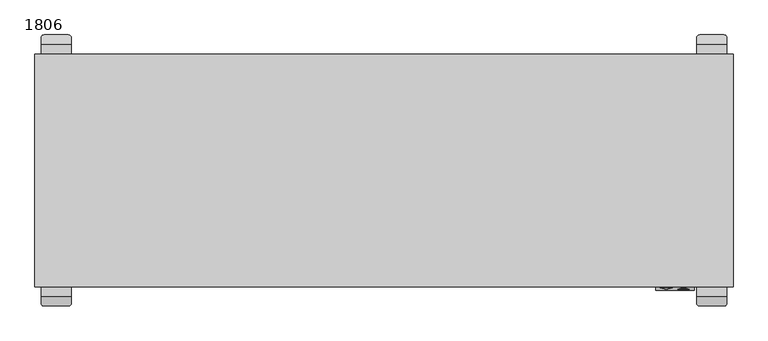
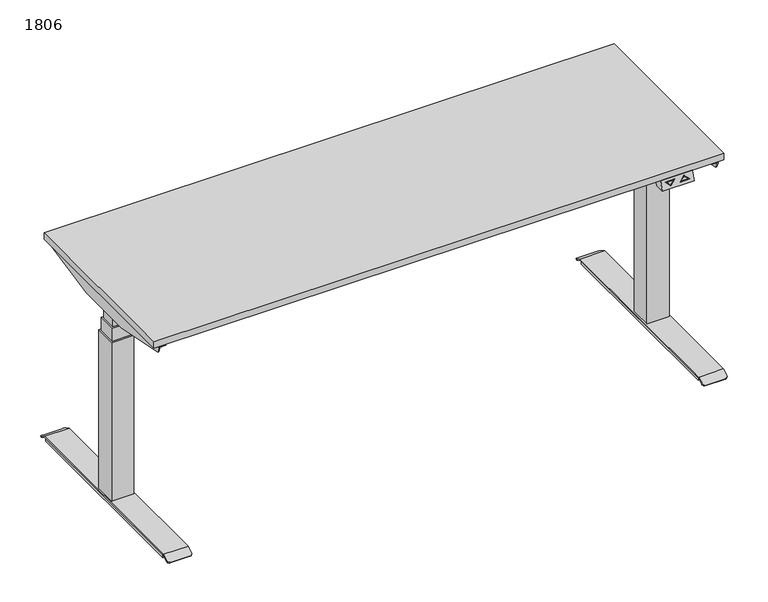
"""IFC4 building model written with IfcOpenShell, lengths in millimetres: furniture geometry, PINTA EQC : 1806."""

from ifc_helpers import new_model, si_unit, point, frame, frame_2d, origin, origin_with_axes, place, context, project, spatial, polyline, circle_curve, trimmed, segment, composite_curve, outline, extrude, faceted_brep, source, transform, mapped, element, save
from ifc_brep_helpers import plane_surface, cylinder_surface, advanced_brep


def furniture_1806_ecada380(model_context):
    return source(origin(), model_context, "Body", "SolidModel", [
        faceted_brep([(700.0, -610.0, 668.0), (700.0, -580.0, 668.0), (800.0, -580.0, 668.0), (800.0, -610.0, 668.0), (700.0, -600.0, 698.0), (800.0, -600.0, 698.0), (800.0, -570.0, 698.0), (700.0, -570.0, 698.0), (712.5, -602.6491106, 690.0526681), (742.5, -602.6491106, 690.0526681), (727.5, -607.3925271, 675.8224186), (787.5, -606.9174824, 677.2475529), (757.5, -606.9174824, 677.2475529), (772.5, -602.1740659, 691.4778023), (727.5, -606.4980999, 678.5057002), (737.6715729, -603.2815662, 688.1553015), (717.3284271, -603.2815662, 688.1553015), (782.6715729, -606.2850268, 679.1449195), (772.5, -603.0684931, 688.7945208), (762.3284271, -606.2850268, 679.1449195), (742.5, -601.7004273, 689.7364403), (712.5, -601.7004273, 689.7364403), (727.5, -606.4438438, 675.5061908), (737.6715729, -602.3328829, 687.8390737), (727.5, -605.5494166, 678.1894724), (717.3284271, -602.3328829, 687.8390737), (757.5, -605.9687991, 676.9313251), (787.5, -605.9687991, 676.9313251), (772.5, -601.2253826, 691.1615746), (772.5, -602.1198098, 688.478293), (782.6715729, -605.3363436, 678.8286917), (762.3284271, -605.3363436, 678.8286917)], [[[0, 1, 2, 3]], [[4, 5, 6, 7]], [[1, 0, 4, 7]], [[3, 2, 6, 5]], [[0, 3, 5, 4], [8, 9, 10], [11, 12, 13]], [[14, 15, 16]], [[17, 18, 19]], [[2, 1, 7, 6]], [[20, 21, 22], [23, 24, 25]], [[26, 27, 28], [29, 30, 31]], [[21, 20, 9, 8]], [[22, 21, 8, 10]], [[20, 22, 10, 9]], [[27, 26, 12, 11]], [[28, 27, 11, 13]], [[26, 28, 13, 12]], [[24, 23, 15, 14]], [[25, 24, 14, 16]], [[23, 25, 16, 15]], [[30, 29, 18, 17]], [[31, 30, 17, 19]], [[29, 31, 19, 18]]]),
        extrude(outline(polyline([(-880.0, -219.7732113), (880.0, -219.7733158), (880.0, -239.7733158), (-880.0, -239.7732113), (-880.0, -219.7732113)])), frame((0.0, 0.0, 658.0), z_axis=(0.0, 0.0, 1.0), x_axis=(1.0, 0.0, 0.0)), (0.0, 0.0, 1.0), 40.0),
        extrude(outline(polyline([(-880.0, -359.7732114), (880.0, -359.7733158), (880.0, -379.7733158), (-880.0, -379.7732114), (-880.0, -359.7732114)])), frame((0.0, 0.0, 658.0), z_axis=(0.0, 0.0, 1.0), x_axis=(1.0, 0.0, 0.0)), (0.0, 0.0, 1.0), 40.0),
        extrude(outline(polyline([(-900.0, -600.0), (-900.0, 0.0), (900.0, 0.0), (900.0, -600.0), (-900.0, -600.0)])), frame((0.0, 0.0, 698.0), z_axis=(0.0, 0.0, 1.0), x_axis=(1.0, 0.0, 0.0)), (0.0, 0.0, 1.0), 22.0),
        advanced_brep(
        [(806.9772339, -620.0, 6.0), (806.9772339, -620.0, 16.0), (806.9772339, 20.0, 16.0), (806.9772339, 20.0, 6.0), (883.0227661, 20.0, 16.0), (883.0227661, 20.0, 6.0), (883.0227661, -620.0, 16.0), (883.0227661, -620.0, 6.0), (806.0, 25.0, 20.0), (806.0, 43.0199519, 9.908827), (806.0, 41.0655384, 6.4188029), (806.0, 23.9562578, 16.0), (806.0, -623.9562578, 16.0), (806.0, -641.0655384, 6.4188029), (806.0, -643.0199519, 9.908827), (806.0, -625.0, 20.0), (884.0, 23.9562578, 16.0), (884.0, 41.0655384, 6.4188029), (884.0, 43.0199519, 9.908827), (884.0, 25.0, 20.0), (884.0, -625.0, 20.0), (884.0, -643.0199519, 9.908827), (884.0, -641.0655384, 6.4188029), (884.0, -623.9562578, 16.0), (814.0, -650.0, 6.0), (876.0, -650.0, 6.0), (814.0, -648.0455865, 2.5099759), (876.0, -648.0455865, 2.5099759), (814.0, 48.0455865, 2.5099759), (876.0, 48.0455865, 2.5099759), (814.0, 50.0, 6.0), (876.0, 50.0, 6.0)],
        [
            (0, 1),
            (1, 2),
            (2, 3),
            (3, 0),
            (2, 4),
            (4, 5),
            (5, 3),
            (4, 6),
            (6, 7),
            (7, 5),
            (6, 1),
            (0, 7),
            (8, 9),
            (9, 10),
            (10, 11),
            (11, 12),
            (12, 13),
            (13, 14),
            (14, 15),
            (15, 8),
            (16, 17),
            (17, 18),
            (18, 19),
            (19, 20),
            (20, 21),
            (21, 22),
            (22, 23),
            (23, 16),
            (15, 20),
            (19, 8),
            (11, 16),
            (23, 12),
            (14, 24, circle_curve(frame((814.0, -643.0199519, 9.908827), z_axis=(0.0, -0.4886033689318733, 0.8725060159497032), x_axis=(0.0, 0.8725060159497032, 0.4886033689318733)), 8.0)),
            (24, 25),
            (25, 21, circle_curve(frame((876.0, -643.0199519, 9.908827), z_axis=(0.0, -0.4886033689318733, 0.8725060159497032), x_axis=(0.0, 0.8725060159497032, 0.4886033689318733)), 8.0)),
            (24, 26),
            (26, 27),
            (27, 25),
            (22, 27, circle_curve(frame((876.0, -641.0655384, 6.4188029), z_axis=(0.0, 0.4886033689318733, -0.8725060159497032), x_axis=(0.0, 0.8725060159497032, 0.4886033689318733)), 8.0)),
            (26, 13, circle_curve(frame((814.0, -641.0655384, 6.4188029), z_axis=(0.0, 0.4886033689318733, -0.8725060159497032), x_axis=(0.0, 0.8725060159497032, 0.4886033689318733)), 8.0)),
            (10, 28, circle_curve(frame((814.0, 41.0655384, 6.4188029), z_axis=(0.0, -0.4886033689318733, -0.8725060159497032), x_axis=(0.0, -0.8725060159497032, 0.4886033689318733)), 8.0)),
            (28, 29),
            (29, 17, circle_curve(frame((876.0, 41.0655384, 6.4188029), z_axis=(0.0, -0.4886033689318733, -0.8725060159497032), x_axis=(0.0, -0.8725060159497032, 0.4886033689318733)), 8.0)),
            (28, 30),
            (30, 31),
            (31, 29),
            (18, 31, circle_curve(frame((876.0, 43.0199519, 9.908827), z_axis=(0.0, 0.4886033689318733, 0.8725060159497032), x_axis=(0.0, -0.8725060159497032, 0.4886033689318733)), 8.0)),
            (30, 9, circle_curve(frame((814.0, 43.0199519, 9.908827), z_axis=(0.0, 0.4886033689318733, 0.8725060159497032), x_axis=(0.0, -0.8725060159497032, 0.4886033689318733)), 8.0)),
        ],
        [
            plane_surface(frame((806.9772339, -620.0, 16.0), z_axis=(-1.0, 0.0, 0.0), x_axis=(0.0, 0.0, -1.0))),
            plane_surface(frame((806.9772339, 20.0, 16.0), z_axis=(0.0, 1.0, 0.0), x_axis=(0.0, 0.0, -1.0))),
            plane_surface(frame((883.0227661, 20.0, 16.0), z_axis=(1.0, 0.0, 0.0), x_axis=(0.0, 0.0, -1.0))),
            plane_surface(frame((883.0227661, -620.0, 16.0), z_axis=(0.0, -1.0, 0.0), x_axis=(0.0, 0.0, -1.0))),
            plane_surface(frame((806.9772339, -623.4188232, 6.0), z_axis=(0.0, 0.0, -1.0), x_axis=(0.0, -1.0, 0.0))),
            plane_surface(frame((806.0, -300.0, 20.0), z_axis=(-1.0, 0.0, 0.0), x_axis=(0.0, -1.0, 0.0))),
            plane_surface(frame((884.0, -300.0, 20.0), z_axis=(1.0, 0.0, 0.0), x_axis=(0.0, 1.0, 0.0))),
            plane_surface(frame((806.0, 25.0, 20.0), z_axis=(0.0, 0.0, 1.0), x_axis=(1.0, 0.0, 0.0))),
            plane_surface(frame((806.0, -623.9562578, 16.0), z_axis=(0.0, 0.0, -1.0), x_axis=(1.0, 0.0, 0.0))),
            plane_surface(frame((806.0, -625.0, 20.0), z_axis=(0.0, -0.4886033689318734, 0.8725060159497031), x_axis=(1.0, 0.0, 0.0))),
            plane_surface(frame((806.0, -650.0, 6.0), z_axis=(0.0, -0.872506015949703, -0.4886033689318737), x_axis=(1.0, 0.0, 0.0))),
            plane_surface(frame((806.0, -648.0455865, 2.5099759), z_axis=(0.0, 0.4886033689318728, -0.8725060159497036), x_axis=(1.0, 0.0, 0.0))),
            plane_surface(frame((806.0, 23.9562578, 16.0), z_axis=(0.0, -0.4886033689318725, -0.8725060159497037), x_axis=(1.0, 0.0, 0.0))),
            plane_surface(frame((806.0, 48.0455865, 2.5099759), z_axis=(0.0, 0.8725060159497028, -0.48860336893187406), x_axis=(1.0, 0.0, 0.0))),
            plane_surface(frame((806.0, 50.0, 6.0), z_axis=(0.0, 0.48860336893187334, 0.8725060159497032), x_axis=(1.0, 0.0, 0.0))),
            cylinder_surface(frame((814.0, -643.0199519, 9.908827), z_axis=(0.0, -0.4886033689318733, 0.8725060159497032), x_axis=(0.0, 0.8725060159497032, 0.4886033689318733)), 8.0),
            cylinder_surface(frame((876.0, -643.0199519, 9.908827), z_axis=(0.0, -0.4886033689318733, 0.8725060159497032), x_axis=(0.0, 0.8725060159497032, 0.4886033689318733)), 8.0),
            cylinder_surface(frame((814.0, 43.0199519, 9.908827), z_axis=(0.0, 0.4886033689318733, 0.8725060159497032), x_axis=(0.0, -0.8725060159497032, 0.4886033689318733)), 8.0),
            cylinder_surface(frame((876.0, 43.0199519, 9.908827), z_axis=(0.0, 0.4886033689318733, 0.8725060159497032), x_axis=(0.0, -0.8725060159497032, 0.4886033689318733)), 8.0),
        ],
        [
            (0, [[1, 2, 3, 4]]),
            (1, [[-3, 5, 6, 7]]),
            (2, [[-6, 8, 9, 10]]),
            (3, [[-9, 11, -1, 12]]),
            (4, [[-4, -7, -10, -12]]),
            (5, [[13, 14, 15, 16, 17, 18, 19, 20]]),
            (6, [[21, 22, 23, 24, 25, 26, 27, 28]]),
            (7, [[29, -24, 30, -20]]),
            (8, [[31, -28, 32, -16], [-11, -8, -5, -2]]),
            (9, [[-19, 33, 34, 35, -25, -29]]),
            (10, [[36, 37, 38, -34]]),
            (11, [[-27, 39, -37, 40, -17, -32]]),
            (12, [[-15, 41, 42, 43, -21, -31]]),
            (13, [[44, 45, 46, -42]]),
            (14, [[-23, 47, -45, 48, -13, -30]]),
            (15, [[-40, -36, -33, -18]]),
            (16, [[-35, -38, -39, -26]]),
            (17, [[-48, -44, -41, -14]]),
            (18, [[-43, -46, -47, -22]]),
        ],
    ),
        faceted_brep([(679.4551307, -360.0, 698.0), (862.9996948, -360.0, 698.0), (862.9996948, -600.0, 698.0), (879.4551307, -600.0, 698.0), (883.0, -600.0, 698.0), (883.0, 0.0, 698.0), (879.4551307, 0.0, 698.0), (862.9996948, 0.0, 698.0), (862.9996948, -240.0, 698.0), (679.4551307, -240.0, 698.0), (679.4551307, -360.0, 635.2327881), (679.4551307, -240.0, 635.2327881), (879.4551307, -240.0, 635.2327881), (879.4551307, -203.8252348, 635.2327881), (883.0, -203.8252348, 635.2327881), (883.0, -396.1747652, 635.2327881), (879.4551307, -396.1747652, 635.2327881), (879.4551307, -360.0, 635.2327881), (862.9996948, -240.0, 694.9093018), (879.4551307, -240.0, 694.9093018), (879.4551307, -360.0, 694.9093018), (862.9996948, -360.0, 694.9093018), (879.4551307, -600.0, 694.9093018), (862.9996948, -600.0, 694.9093018), (879.4551307, 0.0, 694.9093018), (862.9996948, 0.0, 694.9093018), (879.4551307, -1.1249222, 694.9093018), (879.4551307, -598.8750778, 694.9093018), (879.4551307, -8.5505036, 674.5076845), (879.4551307, -591.4494964, 674.5076845), (883.0, -8.5505036, 674.5076845), (883.0, -591.4494964, 674.5076845)], [[[0, 1, 2, 3, 4, 5, 6, 7, 8, 9]], [[10, 11, 12, 13, 14, 15, 16, 17]], [[9, 11, 10, 0]], [[11, 9, 8, 18, 19, 12]], [[17, 20, 21, 1, 0, 10]], [[22, 3, 2, 23]], [[24, 25, 7, 6]], [[24, 26, 19, 18, 25]], [[23, 21, 20, 27, 22]], [[2, 1, 21, 23]], [[25, 18, 8, 7]], [[13, 12, 19, 26, 28]], [[29, 27, 20, 17, 16]], [[15, 14, 30, 5, 4, 31]], [[16, 15, 31, 29]], [[22, 27, 3]], [[6, 26, 24]], [[4, 3, 27, 29, 31]], [[28, 30, 14, 13]], [[30, 28, 26, 6, 5]]]),
        extrude(outline(composite_curve([segment(trimmed(circle_curve(frame_2d((845.0, -605.0)), 25.0), [point((870.0, -605.0))], [point((820.0, -605.0))], False, "CARTESIAN"), True, "CONTINUOUS"), segment(trimmed(circle_curve(frame_2d((845.0, -605.0)), 25.0), [point((820.0, -605.0))], [point((870.0, -605.0))], False, "CARTESIAN"), True, "CONTINUOUS")], self_intersect=False)), origin_with_axes(), (0.0, 0.0, 1.0), 6.0),
        extrude(outline(composite_curve([segment(trimmed(circle_curve(frame_2d((845.0, 5.0)), 25.0), [point((870.0, 5.0))], [point((820.0, 5.0))], False, "CARTESIAN"), True, "CONTINUOUS"), segment(trimmed(circle_curve(frame_2d((845.0, 5.0)), 25.0), [point((820.0, 5.0))], [point((870.0, 5.0))], False, "CARTESIAN"), True, "CONTINUOUS")], self_intersect=False)), origin_with_axes(), (0.0, 0.0, 1.0), 6.0),
        faceted_brep([(810.0, -265.0, 550.0), (810.0, -334.9621325, 550.0), (880.0, -334.9621325, 550.0), (880.0, -265.0, 550.0), (875.0, -270.0, 550.0), (875.0, -329.9621325, 550.0), (815.0, -329.9621325, 550.0), (815.0, -270.0, 550.0), (810.0, -265.0, 20.0), (880.0, -265.0, 20.0), (880.0, -334.9621325, 20.0), (810.0, -334.9621325, 20.0), (815.0, -270.0, 592.616394), (815.0, -329.9621325, 592.616394), (875.0, -329.9621325, 592.616394), (875.0, -270.0, 592.616394), (870.0, -275.0, 592.616394), (870.0, -324.9621325, 592.616394), (820.0, -324.9621325, 592.616394), (820.0, -275.0, 592.616394), (820.0, -275.0, 635.2327881), (820.0, -324.9621325, 635.2327881), (870.0, -324.9621325, 635.2327881), (870.0, -275.0, 635.2327881)], [[[0, 1, 2, 3], [4, 5, 6, 7]], [[8, 9, 10, 11]], [[3, 9, 8, 0]], [[2, 10, 9, 3]], [[1, 11, 10, 2]], [[0, 8, 11, 1]], [[12, 13, 14, 15], [16, 17, 18, 19]], [[15, 4, 7, 12]], [[14, 5, 4, 15]], [[13, 6, 5, 14]], [[12, 7, 6, 13]], [[20, 21, 22, 23]], [[23, 16, 19, 20]], [[22, 17, 16, 23]], [[21, 18, 17, 22]], [[20, 19, 18, 21]]]),
        advanced_brep(
        [(-806.9772339, -620.0, 6.0), (-806.9772339, 20.0, 6.0), (-806.9772339, 20.0, 16.0), (-806.9772339, -620.0, 16.0), (-883.0227661, 20.0, 6.0), (-883.0227661, 20.0, 16.0), (-883.0227661, -620.0, 6.0), (-883.0227661, -620.0, 16.0), (-806.0, 25.0, 20.0), (-806.0, -625.0, 20.0), (-806.0, -643.0199519, 9.908827), (-806.0, -641.0655384, 6.4188029), (-806.0, -623.9562578, 16.0), (-806.0, 23.9562578, 16.0), (-806.0, 41.0655384, 6.4188029), (-806.0, 43.0199519, 9.908827), (-884.0, 23.9562578, 16.0), (-884.0, -623.9562578, 16.0), (-884.0, -641.0655384, 6.4188029), (-884.0, -643.0199519, 9.908827), (-884.0, -625.0, 20.0), (-884.0, 25.0, 20.0), (-884.0, 43.0199519, 9.908827), (-884.0, 41.0655384, 6.4188029), (-876.0, -650.0, 6.0), (-814.0, -650.0, 6.0), (-876.0, -648.0455865, 2.5099759), (-814.0, -648.0455865, 2.5099759), (-876.0, 48.0455865, 2.5099759), (-814.0, 48.0455865, 2.5099759), (-876.0, 50.0, 6.0), (-814.0, 50.0, 6.0)],
        [
            (0, 1),
            (1, 2),
            (2, 3),
            (3, 0),
            (1, 4),
            (4, 5),
            (5, 2),
            (4, 6),
            (6, 7),
            (7, 5),
            (6, 0),
            (3, 7),
            (8, 9),
            (9, 10),
            (10, 11),
            (11, 12),
            (12, 13),
            (13, 14),
            (14, 15),
            (15, 8),
            (16, 17),
            (17, 18),
            (18, 19),
            (19, 20),
            (20, 21),
            (21, 22),
            (22, 23),
            (23, 16),
            (8, 21),
            (20, 9),
            (12, 17),
            (16, 13),
            (19, 24, circle_curve(frame((-876.0, -643.0199519, 9.908827), z_axis=(0.0, -0.4886033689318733, 0.8725060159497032), x_axis=(0.0, 0.8725060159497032, 0.4886033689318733)), 8.0)),
            (24, 25),
            (25, 10, circle_curve(frame((-814.0, -643.0199519, 9.908827), z_axis=(0.0, -0.4886033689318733, 0.8725060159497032), x_axis=(0.0, 0.8725060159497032, 0.4886033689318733)), 8.0)),
            (24, 26),
            (26, 27),
            (27, 25),
            (11, 27, circle_curve(frame((-814.0, -641.0655384, 6.4188029), z_axis=(0.0, 0.4886033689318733, -0.8725060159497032), x_axis=(0.0, 0.8725060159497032, 0.4886033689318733)), 8.0)),
            (26, 18, circle_curve(frame((-876.0, -641.0655384, 6.4188029), z_axis=(0.0, 0.4886033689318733, -0.8725060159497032), x_axis=(0.0, 0.8725060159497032, 0.4886033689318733)), 8.0)),
            (23, 28, circle_curve(frame((-876.0, 41.0655384, 6.4188029), z_axis=(0.0, -0.4886033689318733, -0.8725060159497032), x_axis=(0.0, -0.8725060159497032, 0.4886033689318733)), 8.0)),
            (28, 29),
            (29, 14, circle_curve(frame((-814.0, 41.0655384, 6.4188029), z_axis=(0.0, -0.4886033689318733, -0.8725060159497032), x_axis=(0.0, -0.8725060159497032, 0.4886033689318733)), 8.0)),
            (28, 30),
            (30, 31),
            (31, 29),
            (15, 31, circle_curve(frame((-814.0, 43.0199519, 9.908827), z_axis=(0.0, 0.4886033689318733, 0.8725060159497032), x_axis=(0.0, -0.8725060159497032, 0.4886033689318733)), 8.0)),
            (30, 22, circle_curve(frame((-876.0, 43.0199519, 9.908827), z_axis=(0.0, 0.4886033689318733, 0.8725060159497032), x_axis=(0.0, -0.8725060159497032, 0.4886033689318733)), 8.0)),
        ],
        [
            plane_surface(frame((-806.9772339, -620.0, 16.0), z_axis=(1.0, 0.0, 0.0), x_axis=(0.0, 0.0, -1.0))),
            plane_surface(frame((-806.9772339, 20.0, 16.0), z_axis=(0.0, 1.0, 0.0), x_axis=(0.0, 0.0, -1.0))),
            plane_surface(frame((-883.0227661, 20.0, 16.0), z_axis=(-1.0, 0.0, 0.0), x_axis=(0.0, 0.0, -1.0))),
            plane_surface(frame((-883.0227661, -620.0, 16.0), z_axis=(0.0, -1.0, 0.0), x_axis=(0.0, 0.0, -1.0))),
            plane_surface(frame((-806.9772339, -623.4188232, 6.0), z_axis=(0.0, 0.0, -1.0), x_axis=(0.0, -1.0, 0.0))),
            plane_surface(frame((-806.0, -300.0, 20.0), z_axis=(1.0, 0.0, 0.0), x_axis=(0.0, -1.0, 0.0))),
            plane_surface(frame((-884.0, -300.0, 20.0), z_axis=(-1.0, 0.0, 0.0), x_axis=(0.0, 1.0, 0.0))),
            plane_surface(frame((-806.0, 25.0, 20.0), z_axis=(0.0, 0.0, 1.0), x_axis=(-1.0, 0.0, 0.0))),
            plane_surface(frame((-806.0, -623.9562578, 16.0), z_axis=(0.0, 0.0, -1.0), x_axis=(-1.0, 0.0, 0.0))),
            plane_surface(frame((-806.0, -625.0, 20.0), z_axis=(0.0, -0.4886033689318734, 0.8725060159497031), x_axis=(-1.0, 0.0, 0.0))),
            plane_surface(frame((-806.0, -650.0, 6.0), z_axis=(0.0, -0.872506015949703, -0.4886033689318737), x_axis=(-1.0, 0.0, 0.0))),
            plane_surface(frame((-806.0, -648.0455865, 2.5099759), z_axis=(0.0, 0.4886033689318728, -0.8725060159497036), x_axis=(-1.0, 0.0, 0.0))),
            plane_surface(frame((-806.0, 23.9562578, 16.0), z_axis=(0.0, -0.4886033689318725, -0.8725060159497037), x_axis=(-1.0, 0.0, 0.0))),
            plane_surface(frame((-806.0, 48.0455865, 2.5099759), z_axis=(0.0, 0.8725060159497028, -0.48860336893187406), x_axis=(-1.0, 0.0, 0.0))),
            plane_surface(frame((-806.0, 50.0, 6.0), z_axis=(0.0, 0.48860336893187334, 0.8725060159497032), x_axis=(-1.0, 0.0, 0.0))),
            cylinder_surface(frame((-814.0, -643.0199519, 9.908827), z_axis=(0.0, -0.4886033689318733, 0.8725060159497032), x_axis=(0.0, 0.8725060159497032, 0.4886033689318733)), 8.0),
            cylinder_surface(frame((-876.0, -643.0199519, 9.908827), z_axis=(0.0, -0.4886033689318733, 0.8725060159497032), x_axis=(0.0, 0.8725060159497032, 0.4886033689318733)), 8.0),
            cylinder_surface(frame((-814.0, 43.0199519, 9.908827), z_axis=(0.0, 0.4886033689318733, 0.8725060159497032), x_axis=(0.0, -0.8725060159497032, 0.4886033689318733)), 8.0),
            cylinder_surface(frame((-876.0, 43.0199519, 9.908827), z_axis=(0.0, 0.4886033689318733, 0.8725060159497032), x_axis=(0.0, -0.8725060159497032, 0.4886033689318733)), 8.0),
        ],
        [
            (0, [[1, 2, 3, 4]]),
            (1, [[5, 6, 7, -2]]),
            (2, [[8, 9, 10, -6]]),
            (3, [[11, -4, 12, -9]]),
            (4, [[-11, -8, -5, -1]]),
            (5, [[13, 14, 15, 16, 17, 18, 19, 20]]),
            (6, [[21, 22, 23, 24, 25, 26, 27, 28]]),
            (7, [[-13, 29, -25, 30]]),
            (8, [[-17, 31, -21, 32], [-3, -7, -10, -12]]),
            (9, [[-30, -24, 33, 34, 35, -14]]),
            (10, [[-34, 36, 37, 38]]),
            (11, [[-31, -16, 39, -37, 40, -22]]),
            (12, [[-32, -28, 41, 42, 43, -18]]),
            (13, [[-42, 44, 45, 46]]),
            (14, [[-29, -20, 47, -45, 48, -26]]),
            (15, [[-15, -35, -38, -39]]),
            (16, [[-23, -40, -36, -33]]),
            (17, [[-19, -43, -46, -47]]),
            (18, [[-27, -48, -44, -41]]),
        ],
    ),
        faceted_brep([(-679.4551307, -360.0, 698.0), (-679.4551307, -240.0, 698.0), (-862.9996948, -240.0, 698.0), (-862.9996948, 0.0, 698.0), (-879.4551307, 0.0, 698.0), (-883.0, 0.0, 698.0), (-883.0, -600.0, 698.0), (-879.4551307, -600.0, 698.0), (-862.9996948, -600.0, 698.0), (-862.9996948, -360.0, 698.0), (-679.4551307, -360.0, 635.2327881), (-879.4551307, -360.0, 635.2327881), (-879.4551307, -396.1747652, 635.2327881), (-883.0, -396.1747652, 635.2327881), (-883.0, -203.8252348, 635.2327881), (-879.4551307, -203.8252348, 635.2327881), (-879.4551307, -240.0, 635.2327881), (-679.4551307, -240.0, 635.2327881), (-879.4551307, -240.0, 694.9093018), (-862.9996948, -240.0, 694.9093018), (-862.9996948, -360.0, 694.9093018), (-879.4551307, -360.0, 694.9093018), (-879.4551307, -600.0, 694.9093018), (-862.9996948, -600.0, 694.9093018), (-879.4551307, 0.0, 694.9093018), (-862.9996948, 0.0, 694.9093018), (-879.4551307, -598.8750778, 694.9093018), (-879.4551307, -1.1249222, 694.9093018), (-879.4551307, -591.4494964, 674.5076845), (-879.4551307, -8.5505036, 674.5076845), (-883.0, -591.4494964, 674.5076845), (-883.0, -8.5505036, 674.5076845)], [[[0, 1, 2, 3, 4, 5, 6, 7, 8, 9]], [[10, 11, 12, 13, 14, 15, 16, 17]], [[1, 0, 10, 17]], [[17, 16, 18, 19, 2, 1]], [[11, 10, 0, 9, 20, 21]], [[22, 23, 8, 7]], [[24, 4, 3, 25]], [[23, 22, 26, 21, 20]], [[24, 25, 19, 18, 27]], [[8, 23, 20, 9]], [[25, 3, 2, 19]], [[28, 12, 11, 21, 26]], [[15, 29, 27, 18, 16]], [[13, 30, 6, 5, 31, 14]], [[12, 28, 30, 13]], [[22, 7, 26]], [[4, 24, 27]], [[6, 30, 28, 26, 7]], [[29, 15, 14, 31]], [[31, 5, 4, 27, 29]]]),
        extrude(outline(composite_curve([segment(trimmed(circle_curve(frame_2d((-845.0, -605.0)), 25.0), [point((-870.0, -605.0))], [point((-820.0, -605.0))], False, "CARTESIAN"), True, "CONTINUOUS"), segment(trimmed(circle_curve(frame_2d((-845.0, -605.0)), 25.0), [point((-820.0, -605.0))], [point((-870.0, -605.0))], False, "CARTESIAN"), True, "CONTINUOUS")], self_intersect=False)), origin_with_axes(), (0.0, 0.0, 1.0), 6.0),
        extrude(outline(composite_curve([segment(trimmed(circle_curve(frame_2d((-845.0, 5.0)), 25.0), [point((-870.0, 5.0))], [point((-820.0, 5.0))], False, "CARTESIAN"), True, "CONTINUOUS"), segment(trimmed(circle_curve(frame_2d((-845.0, 5.0)), 25.0), [point((-820.0, 5.0))], [point((-870.0, 5.0))], False, "CARTESIAN"), True, "CONTINUOUS")], self_intersect=False)), origin_with_axes(), (0.0, 0.0, 1.0), 6.0),
        faceted_brep([(-810.0, -265.0, 550.0), (-880.0, -265.0, 550.0), (-880.0, -334.9621325, 550.0), (-810.0, -334.9621325, 550.0), (-875.0, -270.0, 550.0), (-815.0, -270.0, 550.0), (-815.0, -329.9621325, 550.0), (-875.0, -329.9621325, 550.0), (-810.0, -265.0, 20.0), (-810.0, -334.9621325, 20.0), (-880.0, -334.9621325, 20.0), (-880.0, -265.0, 20.0), (-815.0, -270.0, 592.616394), (-875.0, -270.0, 592.616394), (-875.0, -329.9621325, 592.616394), (-815.0, -329.9621325, 592.616394), (-870.0, -275.0, 592.616394), (-820.0, -275.0, 592.616394), (-820.0, -324.9621325, 592.616394), (-870.0, -324.9621325, 592.616394), (-820.0, -275.0, 635.2327881), (-870.0, -275.0, 635.2327881), (-870.0, -324.9621325, 635.2327881), (-820.0, -324.9621325, 635.2327881)], [[[0, 1, 2, 3], [4, 5, 6, 7]], [[8, 9, 10, 11]], [[1, 0, 8, 11]], [[2, 1, 11, 10]], [[3, 2, 10, 9]], [[0, 3, 9, 8]], [[12, 13, 14, 15], [16, 17, 18, 19]], [[13, 12, 5, 4]], [[14, 13, 4, 7]], [[15, 14, 7, 6]], [[12, 15, 6, 5]], [[20, 21, 22, 23]], [[21, 20, 17, 16]], [[22, 21, 16, 19]], [[23, 22, 19, 18]], [[20, 23, 18, 17]]]),
    ])


if __name__ == "__main__":
    model = new_model("IFC4")
    model_context = context("Model", 3, world=origin())
    ifc_project = project(units=[si_unit("LENGTHUNIT", "METRE", prefix="MILLI")], contexts=[model_context])
    site = spatial("IfcSite", under=ifc_project)
    building = spatial("IfcBuilding", under=site)
    placement = place(None, origin())
    furniture_1806_shape = furniture_1806_ecada380(model_context)
    element("IfcFurniture", 1, ObjectType="PINTA EQC : 1806", at=placement, inside=building, context=model_context, shape_type="MappedRepresentation", body=[
        mapped(furniture_1806_shape, transform((0.0, 0.0, 0.0), x_axis=(1.0, 0.0, 0.0), y_axis=(0.0, 1.0, 0.0), z_axis=(0.0, 0.0, 1.0))),
    ])
    save(model, "model.ifc")
